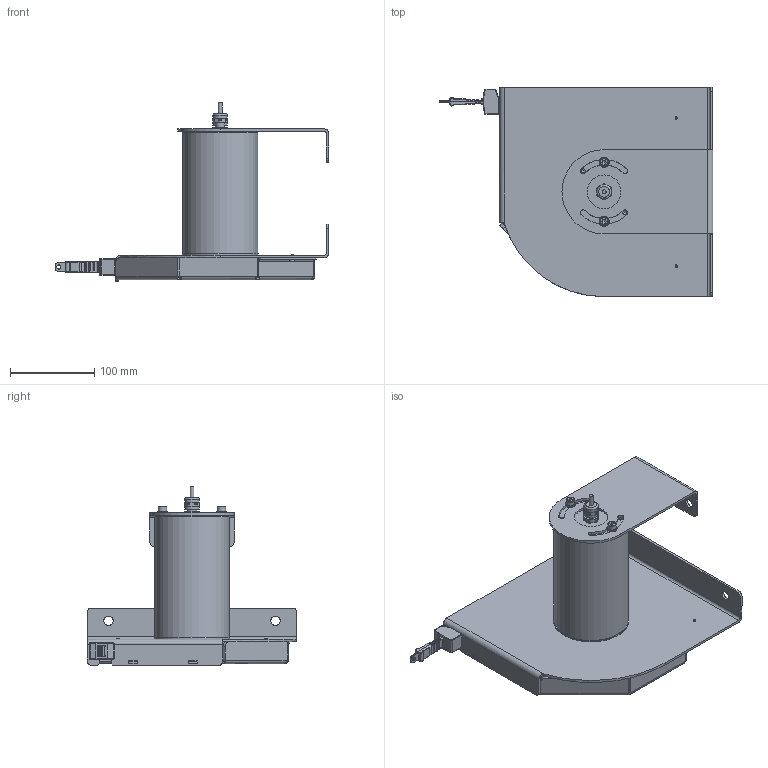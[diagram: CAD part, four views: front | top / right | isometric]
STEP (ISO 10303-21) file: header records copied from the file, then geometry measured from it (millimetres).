
FILE_DESCRIPTION((''),'2;1');
FILE_NAME('C:\Dokumente und Einstellungen\Waneck\Eigene Dateien\Waneck\Zeichnungen\WB-Sensoren Step\WB100M 10000-(I-U-MSSI-CAN)-KAB-BAB.stp','2010-10-28T09:10:50',('waneck'),(''),'Autodesk Inventor 2008','Autodesk Inventor 2008','');
FILE_SCHEMA(('AUTOMOTIVE_DESIGN { 1 0 10303 214 1 1 1 1 }'));
Length unit declared in the file: millimetre
Products named in the file (1): Bauteil4
Bounding box: 324.7 x 248 x 211.9 mm (x, y, z)
Volume: 2420922.8 mm3; surface area: 248402.6 mm2
Topology: 1 solids, 2 shells, 596 faces, 1576 edges, 966 vertices
Faces by surface type: plane 231, cylinder 217, bspline 83, sphere 36, cone 18, torus 11
Full cylindrical faces by diameter (mm): 3 x2, 4.7 x1, 5.5 x2, 6 x2, 6.4 x2, 10 x2, 12 x3, 17 x2, 88.9 x1, 90 x2
Entity records: 22354 total; most frequent: CARTESIAN_POINT 7833, ORIENTED_EDGE 2986, DIRECTION 2873, EDGE_CURVE 1493, AXIS2_PLACEMENT_3D 1070, VERTEX_POINT 944, VECTOR 733, LINE 733
